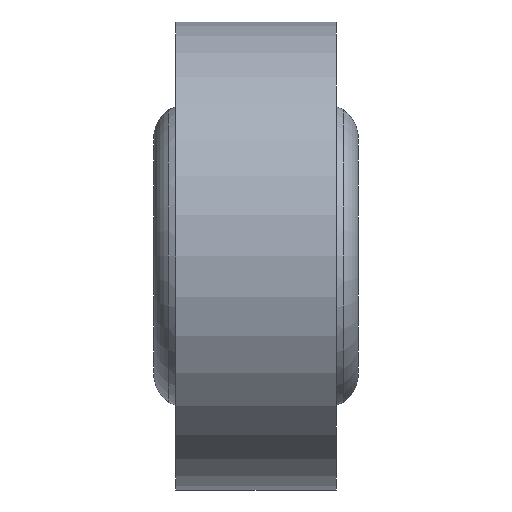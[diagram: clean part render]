
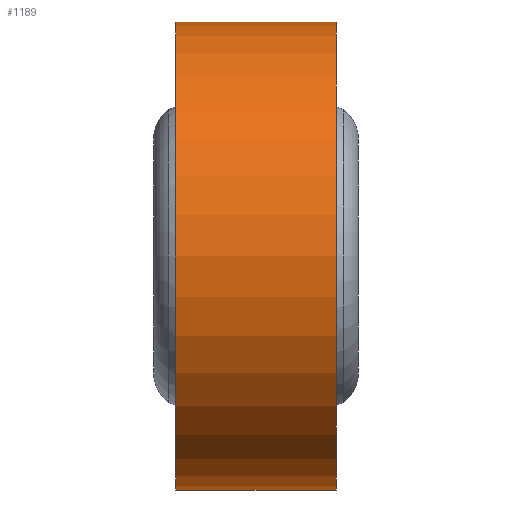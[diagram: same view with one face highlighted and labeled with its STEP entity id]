
A CAD part, left-side view. The second image highlights one B-rep face of the part: STEP entity #1189.
In plain terms, the highlighted cylindrical face has radius 8 mm (diameter 16 mm), a full revolution.
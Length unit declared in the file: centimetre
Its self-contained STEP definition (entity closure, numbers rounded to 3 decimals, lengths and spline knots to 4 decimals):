
#40=VECTOR('',#1363,1.);
#41=VECTOR('',#1364,1.);
#44=LINE('',#1748,#40);
#45=LINE('',#1749,#41);
#60=B_SPLINE_CURVE_WITH_KNOTS('',3,(#1683,#1684,#1685,#1686,#1687,#1688,
#1689,#1690,#1691,#1692,#1693,#1694,#1695,#1696),.UNSPECIFIED.,.F.,.U.,
(4,2,2,2,2,2,4),(0.1045,0.2091,0.3136,
0.4181,0.5226,0.627,0.7316),
 .UNSPECIFIED.);
#61=B_SPLINE_CURVE_WITH_KNOTS('',3,(#1700,#1701,#1702,#1703,#1704,#1705,
#1706,#1707,#1708,#1709,#1710,#1711,#1712,#1713),.UNSPECIFIED.,.F.,.U.,
(4,2,2,2,2,2,4),(0.1045,0.2091,0.3136,
0.4181,0.5226,0.627,0.7316),
 .UNSPECIFIED.);
#62=B_SPLINE_CURVE_WITH_KNOTS('',3,(#1718,#1719,#1720,#1721,#1722,#1723,
#1724,#1725,#1726,#1727,#1728,#1729,#1730,#1731),.UNSPECIFIED.,.F.,.U.,
(4,2,2,2,2,2,4),(0.9407,1.0452,1.1497,1.2542,
1.3587,1.4632,1.5677),.UNSPECIFIED.);
#63=B_SPLINE_CURVE_WITH_KNOTS('',3,(#1732,#1733,#1734,#1735,#1736,#1737,
#1738,#1739,#1740,#1741,#1742,#1743,#1744,#1745),.UNSPECIFIED.,.F.,.U.,
(4,2,2,2,2,2,4),(0.9407,1.0452,1.1497,1.2542,
1.3587,1.4632,1.5677),.UNSPECIFIED.);
#791=CYLINDRICAL_SURFACE('',#1245,0.8);
#825=VERTEX_POINT('',#1681);
#827=VERTEX_POINT('',#1697);
#828=VERTEX_POINT('',#1699);
#829=VERTEX_POINT('',#1715);
#831=VERTEX_POINT('',#1717);
#832=VERTEX_POINT('',#1746);
#865=CIRCLE('',#1246,0.8);
#866=CIRCLE('',#1247,0.8);
#901=EDGE_CURVE('',#827,#825,#60,.T.);
#904=EDGE_CURVE('',#825,#828,#61,.T.);
#907=EDGE_CURVE('',#829,#831,#62,.T.);
#908=EDGE_CURVE('',#832,#829,#63,.T.);
#910=EDGE_CURVE('',#828,#832,#44,.T.);
#911=EDGE_CURVE('',#831,#827,#45,.T.);
#912=EDGE_CURVE('',#825,#825,#865,.T.);
#913=EDGE_CURVE('',#829,#829,#866,.T.);
#982=ORIENTED_EDGE('',*,*,#912,.T.);
#983=ORIENTED_EDGE('',*,*,#904,.T.);
#984=ORIENTED_EDGE('',*,*,#910,.T.);
#985=ORIENTED_EDGE('',*,*,#908,.T.);
#986=ORIENTED_EDGE('',*,*,#913,.T.);
#987=ORIENTED_EDGE('',*,*,#907,.T.);
#988=ORIENTED_EDGE('',*,*,#911,.T.);
#989=ORIENTED_EDGE('',*,*,#901,.T.);
#1064=EDGE_LOOP('',(#982,#983,#984,#985,#986,#987,#988,#989));
#1135=FACE_BOUND('',#1064,.T.);
#1189=ADVANCED_FACE('',(#1135),#791,.T.);
#1245=AXIS2_PLACEMENT_3D('',#1750,#1365,#1366);
#1246=AXIS2_PLACEMENT_3D('',#1751,#1367,#1368);
#1247=AXIS2_PLACEMENT_3D('',#1752,#1369,#1370);
#1363=DIRECTION('',(0.,-1.,0.));
#1364=DIRECTION('',(0.,1.,0.));
#1365=DIRECTION('',(0.,1.,0.));
#1366=DIRECTION('',(0.8,0.,0.));
#1367=DIRECTION('',(0.,-1.,0.));
#1368=DIRECTION('',(0.8,0.,0.));
#1369=DIRECTION('',(0.,1.,0.));
#1370=DIRECTION('',(0.8,0.,0.));
#1681=CARTESIAN_POINT('',(0.8,0.275,0.));
#1683=CARTESIAN_POINT('',(0.7586,0.1056,0.2539));
#1684=CARTESIAN_POINT('',(0.7633,0.1395,0.2398));
#1685=CARTESIAN_POINT('',(0.7699,0.1702,0.2187));
#1686=CARTESIAN_POINT('',(0.7821,0.2187,0.1702));
#1687=CARTESIAN_POINT('',(0.7885,0.2398,0.1395));
#1688=CARTESIAN_POINT('',(0.7975,0.268,0.0718));
#1689=CARTESIAN_POINT('',(0.8,0.275,0.0348));
#1690=CARTESIAN_POINT('',(0.8,0.275,-0.0348));
#1691=CARTESIAN_POINT('',(0.7975,0.268,-0.0718));
#1692=CARTESIAN_POINT('',(0.7885,0.2398,-0.1395));
#1693=CARTESIAN_POINT('',(0.7821,0.2187,-0.1702));
#1694=CARTESIAN_POINT('',(0.7699,0.1702,-0.2187));
#1695=CARTESIAN_POINT('',(0.7633,0.1395,-0.2398));
#1696=CARTESIAN_POINT('',(0.7586,0.1056,-0.2539));
#1697=CARTESIAN_POINT('',(0.77,0.1689,0.217));
#1699=CARTESIAN_POINT('',(0.77,0.1689,-0.217));
#1700=CARTESIAN_POINT('',(0.7586,0.1056,0.2539));
#1701=CARTESIAN_POINT('',(0.7633,0.1395,0.2398));
#1702=CARTESIAN_POINT('',(0.7699,0.1702,0.2187));
#1703=CARTESIAN_POINT('',(0.7821,0.2187,0.1702));
#1704=CARTESIAN_POINT('',(0.7885,0.2398,0.1395));
#1705=CARTESIAN_POINT('',(0.7975,0.268,0.0718));
#1706=CARTESIAN_POINT('',(0.8,0.275,0.0348));
#1707=CARTESIAN_POINT('',(0.8,0.275,-0.0348));
#1708=CARTESIAN_POINT('',(0.7975,0.268,-0.0718));
#1709=CARTESIAN_POINT('',(0.7885,0.2398,-0.1395));
#1710=CARTESIAN_POINT('',(0.7821,0.2187,-0.1702));
#1711=CARTESIAN_POINT('',(0.7699,0.1702,-0.2187));
#1712=CARTESIAN_POINT('',(0.7633,0.1395,-0.2398));
#1713=CARTESIAN_POINT('',(0.7586,0.1056,-0.2539));
#1715=CARTESIAN_POINT('',(0.8,-0.275,0.));
#1717=CARTESIAN_POINT('',(0.77,-0.1689,0.217));
#1718=CARTESIAN_POINT('',(0.7586,-0.1056,-0.2539));
#1719=CARTESIAN_POINT('',(0.7633,-0.1395,-0.2398));
#1720=CARTESIAN_POINT('',(0.7699,-0.1702,-0.2187));
#1721=CARTESIAN_POINT('',(0.7821,-0.2187,-0.1702));
#1722=CARTESIAN_POINT('',(0.7885,-0.2398,-0.1395));
#1723=CARTESIAN_POINT('',(0.7975,-0.268,-0.0718));
#1724=CARTESIAN_POINT('',(0.8,-0.275,-0.0348));
#1725=CARTESIAN_POINT('',(0.8,-0.275,0.0348));
#1726=CARTESIAN_POINT('',(0.7975,-0.268,0.0718));
#1727=CARTESIAN_POINT('',(0.7885,-0.2398,0.1395));
#1728=CARTESIAN_POINT('',(0.7821,-0.2187,0.1702));
#1729=CARTESIAN_POINT('',(0.7699,-0.1702,0.2187));
#1730=CARTESIAN_POINT('',(0.7633,-0.1395,0.2398));
#1731=CARTESIAN_POINT('',(0.7586,-0.1056,0.2539));
#1732=CARTESIAN_POINT('',(0.7586,-0.1056,-0.2539));
#1733=CARTESIAN_POINT('',(0.7633,-0.1395,-0.2398));
#1734=CARTESIAN_POINT('',(0.7699,-0.1702,-0.2187));
#1735=CARTESIAN_POINT('',(0.7821,-0.2187,-0.1702));
#1736=CARTESIAN_POINT('',(0.7885,-0.2398,-0.1395));
#1737=CARTESIAN_POINT('',(0.7975,-0.268,-0.0718));
#1738=CARTESIAN_POINT('',(0.8,-0.275,-0.0348));
#1739=CARTESIAN_POINT('',(0.8,-0.275,0.0348));
#1740=CARTESIAN_POINT('',(0.7975,-0.268,0.0718));
#1741=CARTESIAN_POINT('',(0.7885,-0.2398,0.1395));
#1742=CARTESIAN_POINT('',(0.7821,-0.2187,0.1702));
#1743=CARTESIAN_POINT('',(0.7699,-0.1702,0.2187));
#1744=CARTESIAN_POINT('',(0.7633,-0.1395,0.2398));
#1745=CARTESIAN_POINT('',(0.7586,-0.1056,0.2539));
#1746=CARTESIAN_POINT('',(0.77,-0.1689,-0.217));
#1748=CARTESIAN_POINT('',(0.77,0.,-0.217));
#1749=CARTESIAN_POINT('',(0.77,0.,0.217));
#1750=CARTESIAN_POINT('',(0.,-0.275,0.));
#1751=CARTESIAN_POINT('',(0.,0.275,0.));
#1752=CARTESIAN_POINT('',(0.,-0.275,0.));
